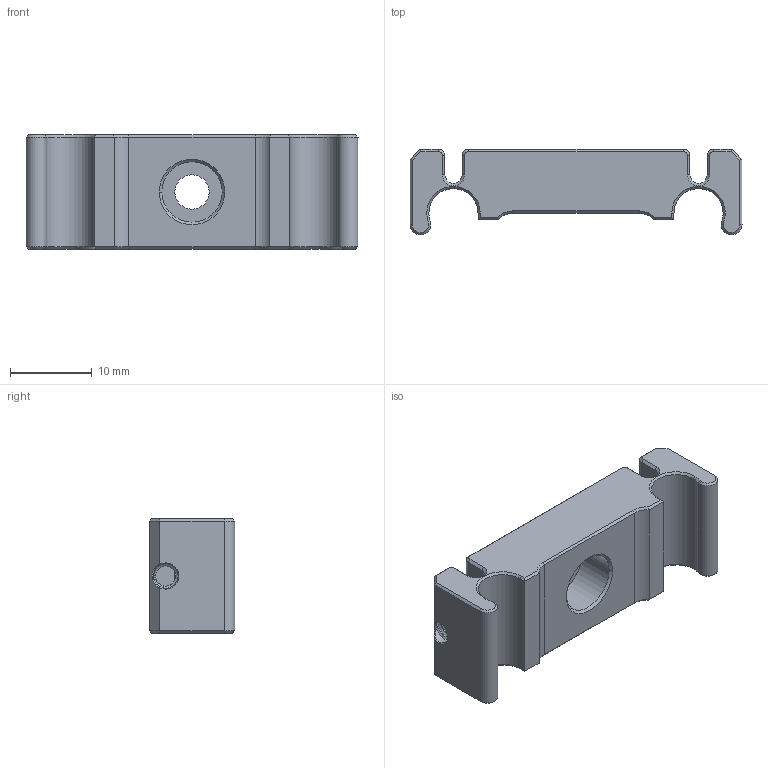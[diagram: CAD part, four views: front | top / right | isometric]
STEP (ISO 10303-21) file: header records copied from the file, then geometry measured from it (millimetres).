
FILE_DESCRIPTION((''),'2;1');
FILE_NAME('CSK-30','2021-10-06T',('daizhiwen'),(''),'CREO PARAMETRIC BY PTC INC, 2018360','CREO PARAMETRIC BY PTC INC, 2018360','');
FILE_SCHEMA(('CONFIG_CONTROL_DESIGN'));
Length unit declared in the file: millimetre
Products named in the file (1): CSK-30
Bounding box: 40.64 x 10.49 x 13.97 mm (x, y, z)
Volume: 3699.3 mm3; surface area: 2497.7 mm2
Topology: 1 solids, 1 shells, 149 faces, 388 edges, 238 vertices
Faces by surface type: plane 53, cylinder 44, cone 34, bspline 18
Entity records: 6867 total; most frequent: CARTESIAN_POINT 3375, ORIENTED_EDGE 776, DIRECTION 634, EDGE_CURVE 388, VERTEX_POINT 238, AXIS2_PLACEMENT_3D 214, VECTOR 206, LINE 206
